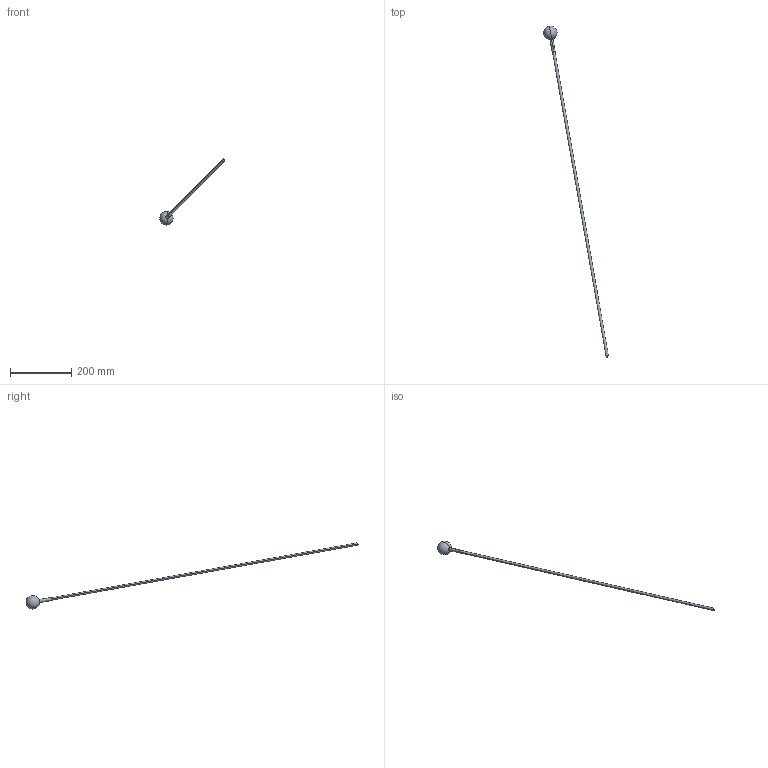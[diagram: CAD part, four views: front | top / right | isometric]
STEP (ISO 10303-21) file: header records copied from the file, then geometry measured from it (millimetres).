
FILE_DESCRIPTION((''),'2;1');
FILE_NAME('PRT0026','2025-05-27T10:27:49',('elena.baldelli'),(''),'CREO PARAMETRIC BY PTC INC, 2020354','CREO PARAMETRIC BY PTC INC, 2020354','');
FILE_SCHEMA(('CONFIG_CONTROL_DESIGN'));
Length unit declared in the file: millimetre
Products named in the file (1): PRT0026
Bounding box: 211.54 x 1085.69 x 215.89 mm (x, y, z)
Surface area: 33819.5 mm2 (no closed solid volume)
Topology: 0 solids, 4 shells, 13 faces, 35 edges, 23 vertices
Faces by surface type: cylinder 4, torus 4, plane 2, sphere 2, cone 1
Entity records: 482 total; most frequent: CARTESIAN_POINT 115, DIRECTION 80, ORIENTED_EDGE 54, AXIS2_PLACEMENT_3D 36, EDGE_CURVE 33, VERTEX_POINT 23, CIRCLE 23, EDGE_LOOP 13
